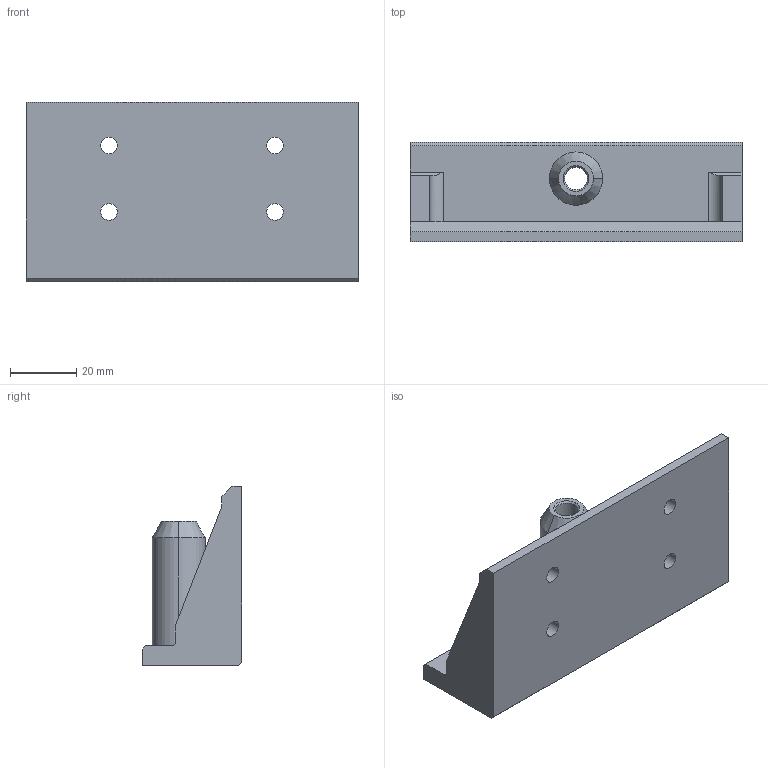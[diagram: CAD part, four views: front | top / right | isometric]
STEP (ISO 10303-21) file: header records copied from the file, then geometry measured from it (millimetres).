
FILE_DESCRIPTION (( 'STEP AP203' ), '1' );
FILE_NAME ('QCL15G-S.STEP', '2024-03-20T05:57:44', ( '微软用户' ), ( '微软中国' ), 'SwSTEP 2.0', 'SolidWorks 2018', '' );
FILE_SCHEMA (( 'CONFIG_CONTROL_DESIGN' ));
Length unit declared in the file: millimetre
Products named in the file (1): QCL15G-S
Bounding box: 100 x 30 x 54 mm (x, y, z)
Volume: 55495.3 mm3; surface area: 21954.3 mm2
Topology: 2 solids, 2 shells, 48 faces, 121 edges, 78 vertices
Faces by surface type: cylinder 20, plane 20, cone 8
Entity records: 1560 total; most frequent: CARTESIAN_POINT 266, DIRECTION 263, ORIENTED_EDGE 242, EDGE_CURVE 121, AXIS2_PLACEMENT_3D 95, VERTEX_POINT 78, VECTOR 73, LINE 73
